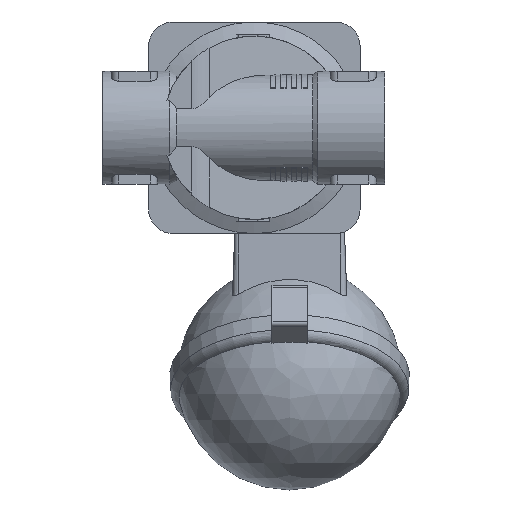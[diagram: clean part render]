
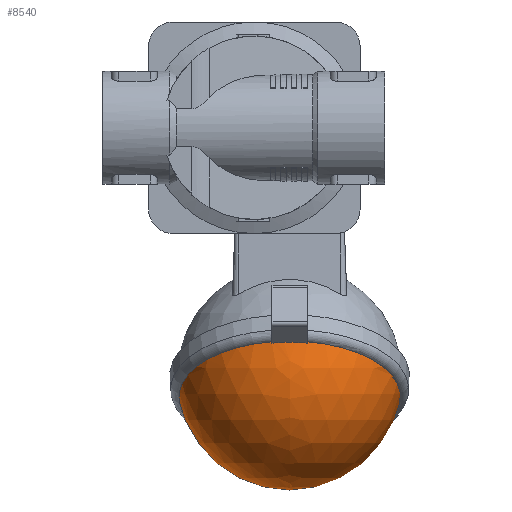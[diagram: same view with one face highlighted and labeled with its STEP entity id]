
A CAD part, front view. The second image highlights one B-rep face of the part: STEP entity #8540.
In plain terms, the highlighted spherical face has radius 32 mm.
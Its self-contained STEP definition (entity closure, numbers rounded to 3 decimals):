
#20=SPHERICAL_SURFACE('',#9209,32.);
#2805=ORIENTED_EDGE('',*,*,#4160,.F.);
#2806=ORIENTED_EDGE('',*,*,#4161,.T.);
#2807=ORIENTED_EDGE('',*,*,#4162,.T.);
#2808=ORIENTED_EDGE('',*,*,#4163,.F.);
#2809=ORIENTED_EDGE('',*,*,#4164,.F.);
#2810=ORIENTED_EDGE('',*,*,#4165,.F.);
#2811=ORIENTED_EDGE('',*,*,#4166,.T.);
#2812=ORIENTED_EDGE('',*,*,#4167,.T.);
#4160=EDGE_CURVE('',#4941,#4942,#5338,.F.);
#4161=EDGE_CURVE('',#4941,#4943,#5339,.F.);
#4162=EDGE_CURVE('',#4943,#4944,#5340,.F.);
#4163=EDGE_CURVE('',#4945,#4944,#5341,.F.);
#4164=EDGE_CURVE('',#4946,#4945,#5342,.F.);
#4165=EDGE_CURVE('',#4947,#4946,#5343,.F.);
#4166=EDGE_CURVE('',#4947,#4948,#5344,.F.);
#4167=EDGE_CURVE('',#4948,#4942,#5345,.F.);
#4941=VERTEX_POINT('',#13293);
#4942=VERTEX_POINT('',#13294);
#4943=VERTEX_POINT('',#13296);
#4944=VERTEX_POINT('',#13298);
#4945=VERTEX_POINT('',#13300);
#4946=VERTEX_POINT('',#13302);
#4947=VERTEX_POINT('',#13304);
#4948=VERTEX_POINT('',#13306);
#5338=CIRCLE('',#9210,31.368);
#5339=CIRCLE('',#9211,31.607);
#5340=CIRCLE('',#9212,31.291);
#5341=CIRCLE('',#9213,31.607);
#5342=CIRCLE('',#9214,31.368);
#5343=CIRCLE('',#9215,30.708);
#5344=CIRCLE('',#9216,30.984);
#5345=CIRCLE('',#9217,30.708);
#5750=EDGE_LOOP('',(#2805,#2806,#2807,#2808,#2809,#2810,#2811,#2812));
#6213=FACE_BOUND('',#5750,.T.);
#8540=ADVANCED_FACE('',(#6213),#20,.T.);
#9209=AXIS2_PLACEMENT_3D('',#13291,#10884,#10885);
#9210=AXIS2_PLACEMENT_3D('',#13292,#10886,#10887);
#9211=AXIS2_PLACEMENT_3D('',#13295,#10888,#10889);
#9212=AXIS2_PLACEMENT_3D('',#13297,#10890,#10891);
#9213=AXIS2_PLACEMENT_3D('',#13299,#10892,#10893);
#9214=AXIS2_PLACEMENT_3D('',#13301,#10894,#10895);
#9215=AXIS2_PLACEMENT_3D('',#13303,#10896,#10897);
#9216=AXIS2_PLACEMENT_3D('',#13305,#10898,#10899);
#9217=AXIS2_PLACEMENT_3D('',#13307,#10900,#10901);
#10884=DIRECTION('',(1.,0.,0.));
#10885=DIRECTION('',(0.,-1.,0.));
#10886=DIRECTION('',(-0.866,-0.5,0.));
#10887=DIRECTION('',(0.5,-0.866,0.));
#10888=DIRECTION('',(0.,0.,1.));
#10889=DIRECTION('',(1.,0.,0.));
#10890=DIRECTION('',(0.866,0.5,0.));
#10891=DIRECTION('',(-0.5,0.866,0.));
#10892=DIRECTION('',(0.,0.,1.));
#10893=DIRECTION('',(1.,0.,0.));
#10894=DIRECTION('',(-0.866,-0.5,0.));
#10895=DIRECTION('',(0.5,-0.866,0.));
#10896=DIRECTION('',(0.,0.,1.));
#10897=DIRECTION('',(1.,0.,0.));
#10898=DIRECTION('',(0.866,0.5,0.));
#10899=DIRECTION('',(-0.5,0.866,0.));
#10900=DIRECTION('',(0.,0.,1.));
#10901=DIRECTION('',(1.,0.,0.));
#13291=CARTESIAN_POINT('',(-70.7,0.,0.));
#13292=CARTESIAN_POINT('',(-76.183,-3.165,0.));
#13293=CARTESIAN_POINT('',(-60.699,-29.983,-5.));
#13294=CARTESIAN_POINT('',(-91.207,22.858,-9.));
#13295=CARTESIAN_POINT('',(-70.7,0.,-5.));
#13296=CARTESIAN_POINT('',(-61.058,-30.1,-5.));
#13297=CARTESIAN_POINT('',(-76.502,-3.35,0.));
#13298=CARTESIAN_POINT('',(-61.058,-30.1,5.));
#13299=CARTESIAN_POINT('',(-70.7,0.,5.));
#13300=CARTESIAN_POINT('',(-60.699,-29.983,5.));
#13301=CARTESIAN_POINT('',(-76.183,-3.165,0.));
#13302=CARTESIAN_POINT('',(-91.207,22.858,9.));
#13303=CARTESIAN_POINT('',(-70.7,0.,9.));
#13304=CARTESIAN_POINT('',(-92.452,21.676,9.));
#13305=CARTESIAN_POINT('',(-77.628,-4.,0.));
#13306=CARTESIAN_POINT('',(-92.452,21.676,-9.));
#13307=CARTESIAN_POINT('',(-70.7,0.,-9.));
